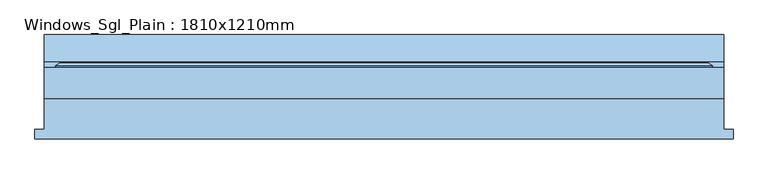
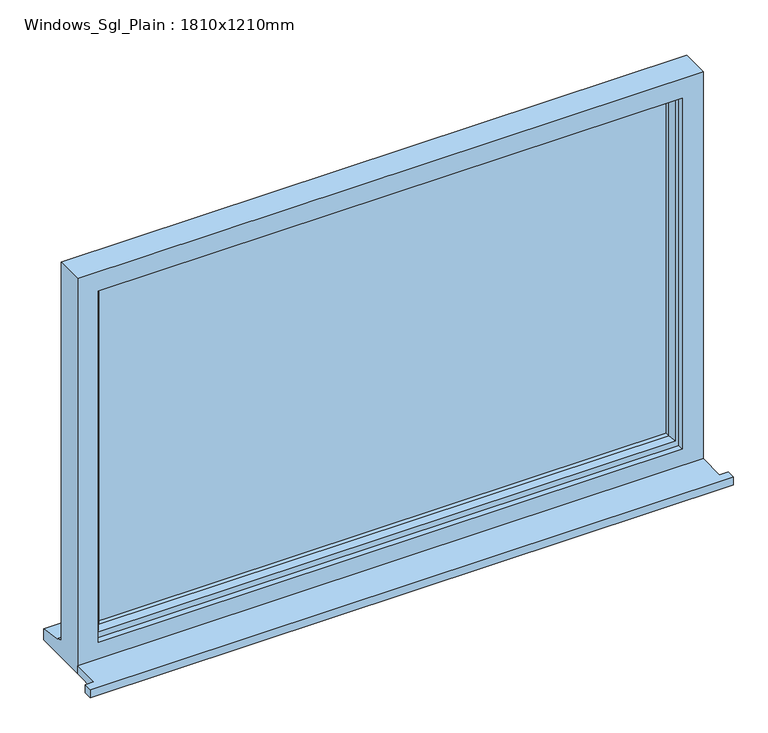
"""IFC4 building model written with IfcOpenShell, lengths in millimetres: window geometry, Windows_Sgl_Plain : 1810x1210mm."""

from ifc_helpers import new_model, si_unit, frame, origin, place, context, project, spatial, polyline, outline, extrude, faceted_brep, source, transform, mapped, element, save


def windows_sgl_plain_1810x1210mm_bf86ad2f(model_context):
    return source(origin(), model_context, "Body", "SolidModel", [
        extrude(outline(polyline([(-930.0, -124.0434322), (-930.0, -99.0434322), (-905.0, -99.0434322), (-905.0, -17.0434322), (905.0, -17.0434322), (905.0, -99.0434322), (930.0, -99.0434322), (930.0, -124.0434322), (-930.0, -124.0434322)])), frame((0.0, 0.0, 900.0), z_axis=(0.0, 0.0, 1.0), x_axis=(1.0, 0.0, 0.0)), (0.0, 0.0, 1.0), 25.0),
        faceted_brep([(-905.0, -17.0434322, 900.0), (905.0, -17.0434322, 900.0), (905.0, -17.0434322, 2110.0), (-905.0, -17.0434322, 2110.0), (-845.0, -17.0434322, 2050.0), (845.0, -17.0434322, 2050.0), (845.0, -17.0434322, 975.0), (-845.0, -17.0434322, 975.0), (-905.0, 65.9565678, 2110.0), (-905.0, 65.9565678, 951.0), (-905.0, 80.9565678, 949.68767), (-905.0, 80.9565678, 944.7449676), (-905.0, 153.4565678, 933.8088847), (-905.0, 153.4565678, 900.0), (905.0, 65.9565678, 2110.0), (905.0, 65.9565678, 951.0), (-865.0, 65.9565678, 2070.0), (-865.0, 65.9565678, 963.0), (865.0, 65.9565678, 963.0), (865.0, 65.9565678, 2070.0), (-865.0, 0.9565678, 2070.0), (-865.0, 0.9565678, 963.0), (865.0, 0.9565678, 2070.0), (865.0, 0.9565678, 963.0), (-845.0, 0.9565678, 2050.0), (-845.0, 0.9565678, 975.0), (845.0, 0.9565678, 975.0), (845.0, 0.9565678, 2050.0), (905.0, 153.4565678, 900.0), (905.0, 153.4565678, 933.8088847), (905.0, 80.9565678, 944.7449676), (905.0, 80.9565678, 949.68767)], [[[0, 1, 2, 3], [4, 5, 6, 7]], [[0, 3, 8, 9, 10, 11, 12, 13]], [[9, 8, 14, 15], [16, 17, 18, 19]], [[17, 16, 20, 21]], [[20, 22, 23, 21], [24, 25, 26, 27]], [[24, 4, 7, 25]], [[3, 2, 14, 8]], [[16, 19, 22, 20]], [[5, 4, 24, 27]], [[15, 14, 2, 1, 28, 29, 30, 31]], [[19, 18, 23, 22]], [[5, 27, 26, 6]], [[28, 1, 0, 13]], [[29, 28, 13, 12]], [[30, 29, 12, 11]], [[31, 30, 11, 10]], [[15, 31, 10, 9]], [[21, 23, 18, 17]], [[7, 6, 26, 25]]]),
        extrude(outline(polyline([(835.0, 29.9565678), (-835.0, 29.9565678), (-835.0, 53.9565678), (835.0, 53.9565678), (835.0, 29.9565678)])), frame((0.0, 0.0, 993.0), z_axis=(0.0, 0.0, 1.0), x_axis=(1.0, 0.0, 0.0)), (0.0, 0.0, 1.0), 1047.0),
        faceted_brep([(-875.0, 65.9565678, 2080.0), (-875.0, 71.7300705, 2080.0), (-875.0, 71.7300705, 953.0), (-875.0, 65.9565678, 953.0), (-865.0, 0.9565678, 2070.0), (-865.0, 65.9565678, 2070.0), (-865.0, 65.9565678, 963.0), (-865.0, 0.9565678, 963.0), (-825.0, 15.4494677, 2030.0), (-835.1480377, 0.9565678, 2040.1480377), (-835.1480377, 0.9565678, 992.8519623), (-825.0, 15.4494677, 1003.0), (-825.0, 29.9565678, 2030.0), (-825.0, 29.9565678, 1003.0), (-835.0, 53.9565678, 2040.0), (-835.0, 29.9565678, 2040.0), (-835.0, 29.9565678, 993.0), (-835.0, 53.9565678, 993.0), (-825.0, 71.7300705, 2030.0), (-825.0, 53.9565678, 2030.0), (-825.0, 53.9565678, 1003.0), (-825.0, 71.7300705, 1003.0), (-842.4457548, 77.5035732, 2047.4457548), (-842.4457548, 77.5035732, 985.5542452), (-864.2153903, 77.5035732, 2069.2153903), (-864.2153903, 77.5035732, 963.7846097), (875.0, 71.7300705, 953.0), (875.0, 65.9565678, 953.0), (865.0, 65.9565678, 963.0), (865.0, 0.9565678, 963.0), (835.1480377, 0.9565678, 992.8519623), (825.0, 15.4494677, 1003.0), (825.0, 29.9565678, 1003.0), (835.0, 29.9565678, 993.0), (835.0, 53.9565678, 993.0), (825.0, 53.9565678, 1003.0), (825.0, 71.7300705, 1003.0), (842.4457548, 77.5035732, 985.5542452), (864.2153903, 77.5035732, 963.7846097), (875.0, 71.7300705, 2080.0), (875.0, 65.9565678, 2080.0), (865.0, 65.9565678, 2070.0), (865.0, 0.9565678, 2070.0), (835.1480377, 0.9565678, 2040.1480377), (825.0, 15.4494677, 2030.0), (825.0, 29.9565678, 2030.0), (835.0, 29.9565678, 2040.0), (835.0, 53.9565678, 2040.0), (825.0, 53.9565678, 2030.0), (825.0, 71.7300705, 2030.0), (842.4457548, 77.5035732, 2047.4457548), (864.2153903, 77.5035732, 2069.2153903)], [[[0, 1, 2, 3]], [[4, 5, 6, 7]], [[8, 9, 10, 11]], [[12, 8, 11, 13]], [[14, 15, 16, 17]], [[18, 19, 20, 21]], [[22, 18, 21, 23]], [[1, 24, 25, 2]], [[3, 2, 26, 27]], [[7, 6, 28, 29]], [[11, 10, 30, 31]], [[13, 11, 31, 32]], [[17, 16, 33, 34]], [[21, 20, 35, 36]], [[23, 21, 36, 37]], [[2, 25, 38, 26]], [[27, 26, 39, 40]], [[29, 28, 41, 42]], [[31, 30, 43, 44]], [[32, 31, 44, 45]], [[34, 33, 46, 47]], [[36, 35, 48, 49]], [[37, 36, 49, 50]], [[26, 38, 51, 39]], [[40, 39, 1, 0]], [[3, 27, 40, 0], [5, 41, 28, 6]], [[42, 41, 5, 4]], [[7, 29, 42, 4], [9, 43, 30, 10]], [[44, 43, 9, 8]], [[45, 44, 8, 12]], [[15, 46, 33, 16], [13, 32, 45, 12]], [[47, 46, 15, 14]], [[17, 34, 47, 14], [19, 48, 35, 20]], [[49, 48, 19, 18]], [[50, 49, 18, 22]], [[24, 51, 38, 25], [23, 37, 50, 22]], [[39, 51, 24, 1]]]),
    ])


if __name__ == "__main__":
    model = new_model("IFC4")
    model_context = context("Model", 3, world=origin())
    ifc_project = project(units=[si_unit("LENGTHUNIT", "METRE", prefix="MILLI")], contexts=[model_context])
    site = spatial("IfcSite", under=ifc_project)
    building = spatial("IfcBuilding", under=site)
    placement = place(None, origin())
    windows_sgl_plain_1810x1210mm_shape = windows_sgl_plain_1810x1210mm_bf86ad2f(model_context)
    element("IfcWindow", 1, ObjectType="Windows_Sgl_Plain : 1810x1210mm", at=placement, inside=building, context=model_context, shape_type="MappedRepresentation", body=[
        mapped(windows_sgl_plain_1810x1210mm_shape, transform((0.0, 0.0, 0.0), x_axis=(1.0, 0.0, 0.0), y_axis=(0.0, 1.0, 0.0), z_axis=(0.0, 0.0, 1.0))),
    ])
    save(model, "model.ifc")
